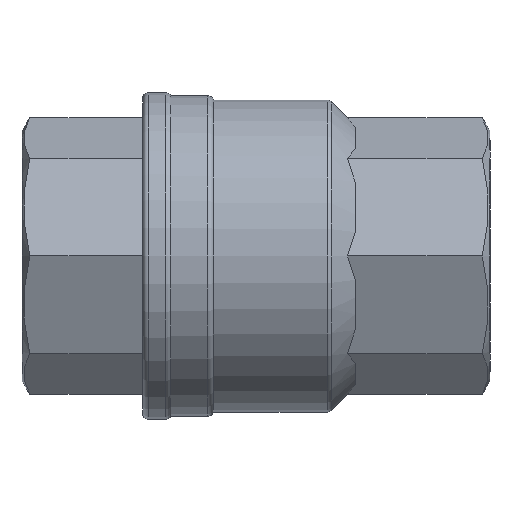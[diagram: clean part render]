
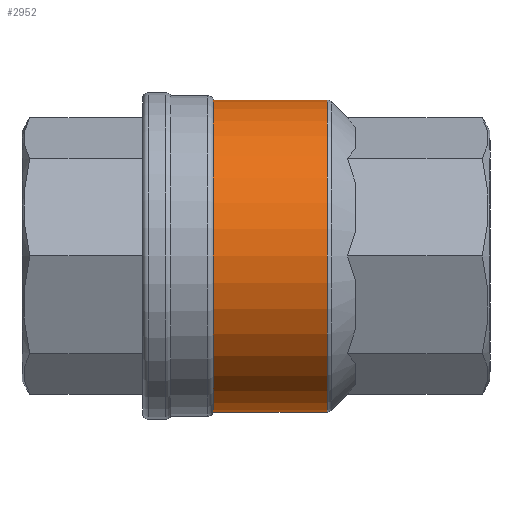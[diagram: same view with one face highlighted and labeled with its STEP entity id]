
A CAD part, front view. The second image highlights one B-rep face of the part: STEP entity #2952.
In plain terms, the highlighted cylindrical face has radius 55 mm (diameter 110 mm), a partial arc.
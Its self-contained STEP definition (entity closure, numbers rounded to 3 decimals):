
#162 = CARTESIAN_POINT ( 'NONE',  ( -15., 0., -55. ) ) ;
#163 = DIRECTION ( 'NONE',  ( 1., 0., 0. ) ) ;
#182 = CARTESIAN_POINT ( 'NONE',  ( -15., 0., 55. ) ) ;
#183 = DIRECTION ( 'NONE',  ( 1., 0., 0. ) ) ;
#204 = CARTESIAN_POINT ( 'NONE',  ( -15., 0., 0. ) ) ;
#206 = DIRECTION ( 'NONE',  ( 1., 0., 0. ) ) ;
#207 = DIRECTION ( 'NONE',  ( 0., 0., 1. ) ) ;
#658 = CARTESIAN_POINT ( 'NONE',  ( -15., 0., -55. ) ) ;
#665 = CARTESIAN_POINT ( 'NONE',  ( 25.172, 0., 55. ) ) ;
#667 = CARTESIAN_POINT ( 'NONE',  ( 25.172, 0., -55. ) ) ;
#779 = CARTESIAN_POINT ( 'NONE',  ( -15., 0., 55. ) ) ;
#1074 = DIRECTION ( 'NONE',  ( 1., 0., 0. ) ) ;
#1077 = DIRECTION ( 'NONE',  ( 0., 0., -1. ) ) ;
#1082 = CARTESIAN_POINT ( 'NONE',  ( -15., 0., 0. ) ) ;
#1269 = AXIS2_PLACEMENT_3D ( 'NONE', #1082, #1074, #1077 ) ;
#1343 = EDGE_CURVE ( 'NONE', #1716, #1714, #2141, .T. ) ;
#1402 = EDGE_CURVE ( 'NONE', #1707, #1716, #1963, .T. ) ;
#1404 = EDGE_CURVE ( 'NONE', #1828, #1714, #2009, .T. ) ;
#1409 = EDGE_CURVE ( 'NONE', #1828, #1707, #2098, .T. ) ;
#1528 = AXIS2_PLACEMENT_3D ( 'NONE', #2719, #2749, #2755 ) ;
#1539 = AXIS2_PLACEMENT_3D ( 'NONE', #204, #206, #207 ) ;
#1707 = VERTEX_POINT ( 'NONE', #658 ) ;
#1714 = VERTEX_POINT ( 'NONE', #665 ) ;
#1716 = VERTEX_POINT ( 'NONE', #667 ) ;
#1828 = VERTEX_POINT ( 'NONE', #779 ) ;
#1962 = VECTOR ( 'NONE', #163, 1000. ) ;
#1963 = LINE ( 'NONE', #162, #1962 ) ;
#1997 = VECTOR ( 'NONE', #183, 1000. ) ;
#2009 = LINE ( 'NONE', #182, #1997 ) ;
#2098 = CIRCLE ( 'NONE', #1539, 55. ) ;
#2141 = CIRCLE ( 'NONE', #1528, 55. ) ;
#2403 = ORIENTED_EDGE ( 'NONE', *, *, #1343, .T. ) ;
#2404 = ORIENTED_EDGE ( 'NONE', *, *, #1402, .T. ) ;
#2405 = ORIENTED_EDGE ( 'NONE', *, *, #1409, .T. ) ;
#2406 = ORIENTED_EDGE ( 'NONE', *, *, #1404, .F. ) ;
#2511 = EDGE_LOOP ( 'NONE', ( #2406, #2405, #2404, #2403 ) ) ;
#2719 = CARTESIAN_POINT ( 'NONE',  ( 25.172, 0., 0. ) ) ;
#2749 = DIRECTION ( 'NONE',  ( -1., 0., 0. ) ) ;
#2755 = DIRECTION ( 'NONE',  ( 0., 0., -1. ) ) ;
#2952 = ADVANCED_FACE ( 'NONE', ( #3160 ), #3159, .T. ) ;
#3159 = CYLINDRICAL_SURFACE ( 'NONE', #1269, 55. ) ;
#3160 = FACE_OUTER_BOUND ( 'NONE', #2511, .T. ) ;
